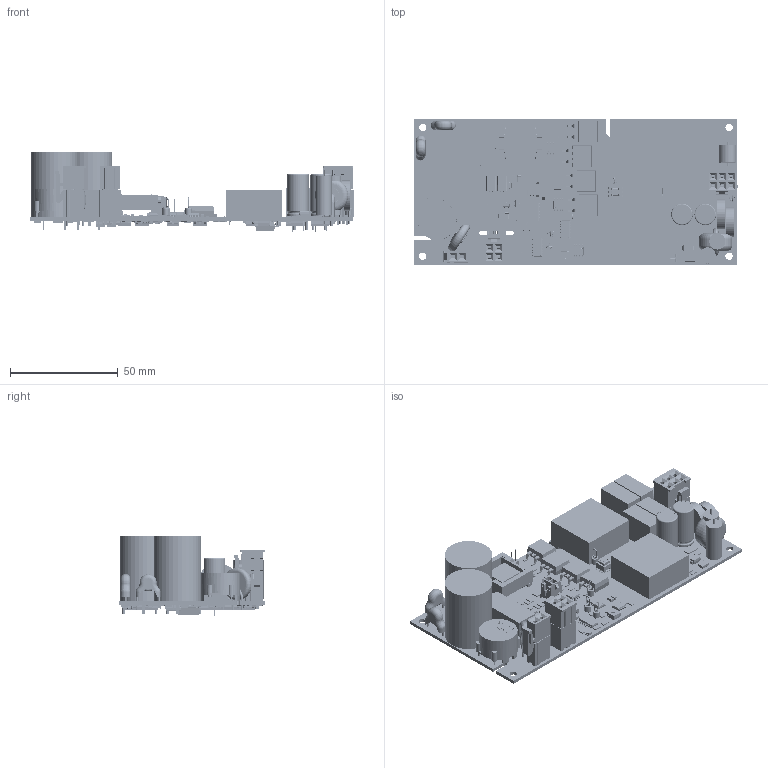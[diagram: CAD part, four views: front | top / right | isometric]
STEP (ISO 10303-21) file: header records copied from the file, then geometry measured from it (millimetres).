
FILE_DESCRIPTION(('Open CASCADE Model'),'2;1');
FILE_NAME('Open CASCADE Shape Model','2018-04-13T14:42:54',('Author'),( 'Open CASCADE'),'Open CASCADE STEP processor 6.8','Open CASCADE 6.8' ,'Unknown');
FILE_SCHEMA(('AUTOMOTIVE_DESIGN { 1 0 10303 214 1 1 1 1 }'));
Length unit declared in the file: millimetre
Products named in the file (307): PCB; BoardSCA58_revB; R60.2SCA58_revB; 1548594208; Cylinder; 1548594336; R60.1SCA58_revB; L2SCA58_revB; Ñáîðêà_òðàíñôîðìàòîðíàÿ_TR1; R57.8SCA58_revB; User_Library-res2512; User_Library-res2512_pad_2512___; User_Library-res2512_res2512_body___; R57.7SCA58_revB; R57.6SCA58_revB; R57.5SCA58_revB; R57.4SCA58_revB; R57.3SCA58_revB; TR1SCA58_revB; STEP-WE-LF-SH-rev1; 7446622002; Pin; C6.2SCA58_revB; 1371207464; Extruded; 1548593440; C6.1SCA58_revB; F1.1SCA58_revB; 1371207192; 1371207328; Z1SCA58_revB; 1548593696; 1548593824; 1548593952; 1548594080; TR3SCA58_revB; 1371206920; 1548592928; 1548593056; L1SCA58_revB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
Assembly tree (514 placements, depth 4):
  PCB
    BoardSCA58_revB
    R60.2SCA58_revB
      1548594208
        Cylinder
      1548594336
        Cylinder
    R60.1SCA58_revB
      1548594208
        Cylinder
      1548594336
        Cylinder
    L2SCA58_revB
      Ñáîðêà_òðàíñôîðìàòîðíàÿ_TR1
    R57.8SCA58_revB
      User_Library-res2512
        User_Library-res2512_pad_2512___
        User_Library-res2512_res2512_body___
    R57.7SCA58_revB
      User_Library-res2512
        User_Library-res2512_pad_2512___
        User_Library-res2512_res2512_body___
    R57.6SCA58_revB
      User_Library-res2512
        User_Library-res2512_pad_2512___
        User_Library-res2512_res2512_body___
    R57.5SCA58_revB
      User_Library-res2512
        User_Library-res2512_pad_2512___
        User_Library-res2512_res2512_body___
    R57.4SCA58_revB
      User_Library-res2512
        User_Library-res2512_pad_2512___
        User_Library-res2512_res2512_body___
    R57.3SCA58_revB
      User_Library-res2512
        User_Library-res2512_pad_2512___
        User_Library-res2512_res2512_body___
    TR1SCA58_revB
      STEP-WE-LF-SH-rev1
        7446622002
        7446622002
        7446622002
        7446622002
        Pin  x4
    C6.2SCA58_revB
      1371207464  x2
        Extruded
      1548593440
        Cylinder
    C6.1SCA58_revB
      1371207464  x2
        Extruded
      1548593440
        Cylinder
    F1.1SCA58_revB
      1371207192  x2
        Extruded
      1371207328
        Extruded
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Bounding box: 150.25 x 68 x 36.71 mm (x, y, z)
Volume: 90887.9 mm3; surface area: 71552.9 mm2
Topology: 420 solids, 432 shells, 30589 faces, 78335 edges, 48429 vertices
Faces by surface type: plane 12845, bspline 10729, cylinder 6406, torus 514, sphere 48, extrusion 27, cone 20
Full cylindrical faces by diameter (mm): 0.5 x2, 0.6 x82, 0.8 x16, 1 x4, 1.7 x4, 3.4 x4, 7 x1, 7.5 x2, 8 x1, 13 x1, 14 x2, 16 x1, 18 x1, 22 x2
Entity records: 442374 total; most frequent: CARTESIAN_POINT 207772, DIRECTION 35931, VECTOR 23383, LINE 23356, ORIENTED_EDGE 22664, PCURVE 22664, DEFINITIONAL_REPRESENTATION 22664, EDGE_CURVE 11350
